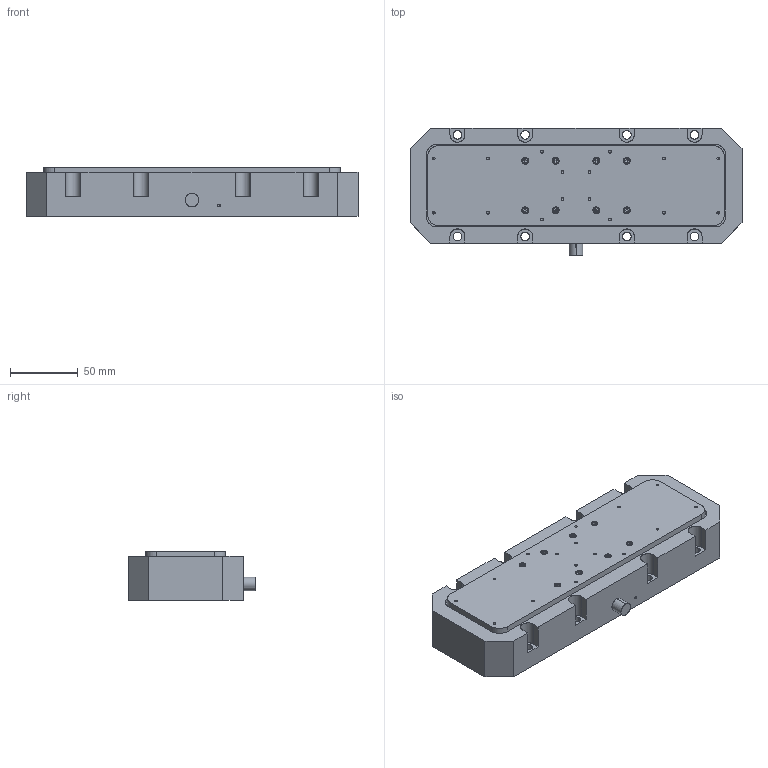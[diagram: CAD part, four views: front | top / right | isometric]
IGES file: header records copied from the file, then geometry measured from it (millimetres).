
Start section: SolidWorks IGES file using analytic representation for surfaces
Global section: file name: HE:\产品\压电类\P系列（平台）\P6平移台\P60\P60.Z1000K\样本\C版\C1\三维\stp格式\P60.Z1000S-C1外形三维-24.04.18.IGS; native system: SolidWorks 2016; preprocessor: SolidWorks 2016; author: Administrator; date: 240418.135837; units: millimetre
Bounding box: 245 x 94.4 x 36 mm (x, y, z)
Surface area: 99173.1 mm2 (no closed solid volume)
Topology: 0 solids, 0 shells, 581 faces, 6816 edges, 6750 vertices
Faces by surface type: bspline 329, revolution 252
